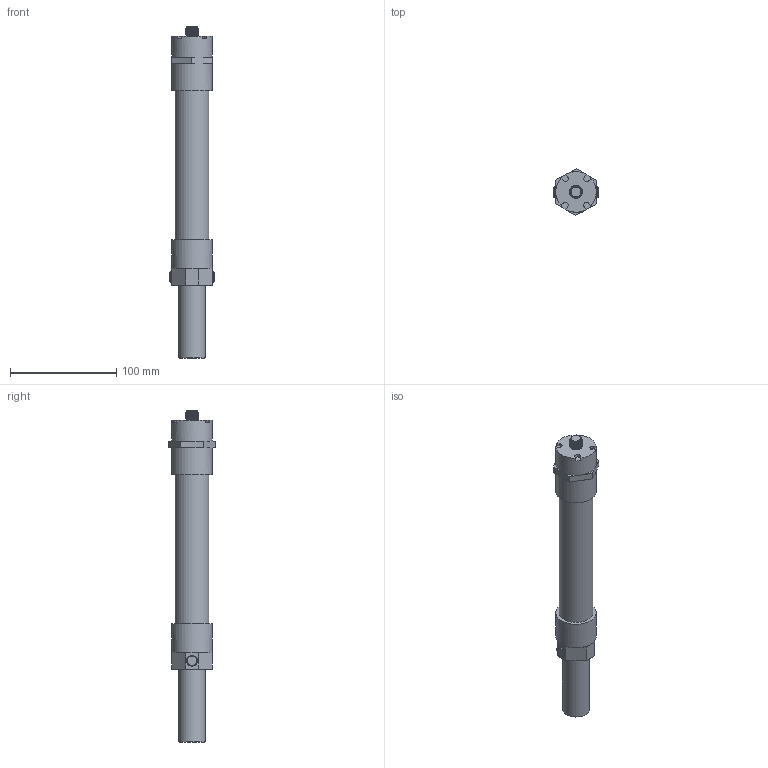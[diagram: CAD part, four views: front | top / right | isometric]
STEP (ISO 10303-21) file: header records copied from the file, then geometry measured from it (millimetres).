
FILE_DESCRIPTION(/* description */ (''),/* implementation_level */ '2;1');
FILE_NAME(/* name */ 'ASSY,VFIA,22MM,CLAMP MOUNT,140MM,S2 (614-49760) STEP FILE - REV C.stp',/* time_stamp */ '2026-01-21T08:29:31-05:00',/* author */ ('ASSY,VFIA,22MM,CLAMP MOUNT,140MM,S2'),/* organization */ ('CenterLine (Windsor) Limited'),/* preprocessor_version */ 'ST-DEVELOPER v20',/* originating_system */ 'Autodesk Inventor 2024',/* authorisation */ '');
FILE_SCHEMA (('AUTOMOTIVE_DESIGN { 1 0 10303 214 3 1 1 }'));
Length unit declared in the file: centimetre
Products named in the file (2): Assembly9; [Primary]_ASSY,VFIA,22MM,CLAMP MOUNT,140MM,S2
Assembly tree (1 placements, depth 2):
  Assembly9
    [Primary]_ASSY,VFIA,22MM,CLAMP MOUNT,140MM,S2
Bounding box: 42.1 x 43.99 x 311.84 mm (x, y, z)
Volume: 253531 mm3; surface area: 34660.7 mm2
Topology: 1 solids, 1 shells, 98 faces, 232 edges, 145 vertices
Faces by surface type: plane 60, cylinder 19, bspline 9, cone 8, torus 2
Full cylindrical faces by diameter (mm): 10 x1, 10.6 x2, 12 x5, 25.4 x1, 31.75 x1, 38.1 x3
Entity records: 8317 total; most frequent: CARTESIAN_POINT 6022, ORIENTED_EDGE 464, DIRECTION 456, EDGE_CURVE 232, AXIS2_PLACEMENT_3D 165, VERTEX_POINT 144, LINE 126, VECTOR 126
